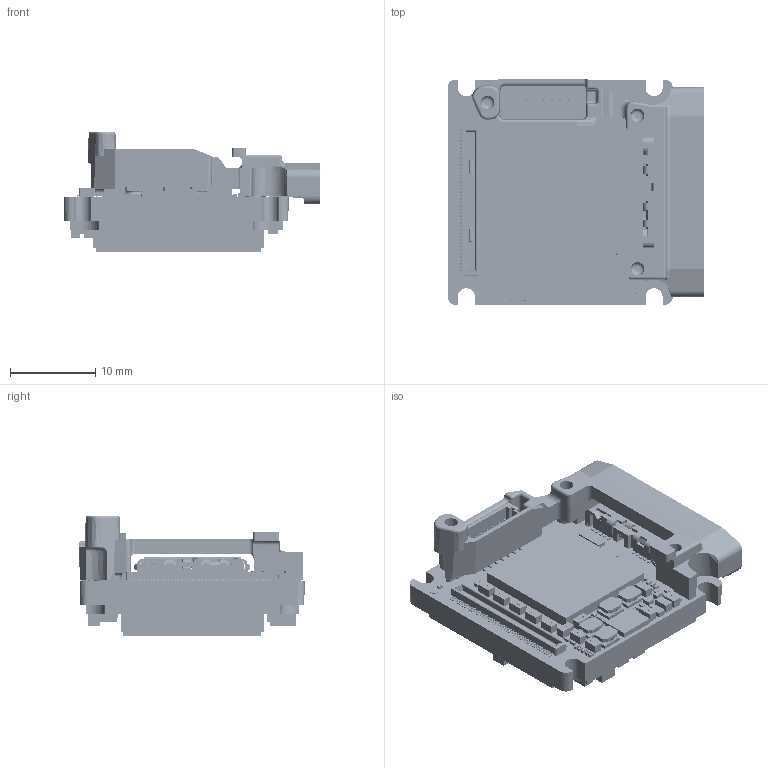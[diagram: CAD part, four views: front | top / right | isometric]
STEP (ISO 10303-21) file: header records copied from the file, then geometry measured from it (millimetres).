
FILE_DESCRIPTION (( 'STEP AP214' ), '1' );
FILE_NAME ('Alvium-USB90-Bare-Board-IMX183.STEP', '2022-12-21T12:19:46', ( '' ), ( '' ), 'SwSTEP 2.0', 'SolidWorks 2021', '' );
FILE_SCHEMA (( 'AUTOMOTIVE_DESIGN' ));
Length unit declared in the file: millimetre
Products named in the file (1): Alvium-USB90-Bare-Board-IMX183
Bounding box: 30.1 x 26.45 x 14.14 mm (x, y, z)
Surface area: 6397.7 mm2 (no closed solid volume)
Topology: 0 solids, 332 shells, 8031 faces, 24463 edges, 17382 vertices
Faces by surface type: plane 4387, bspline 2561, cylinder 1005, cone 38, torus 32, sphere 8
Entity records: 549600 total; most frequent: CARTESIAN_POINT 265580, ORIENTED_EDGE 43797, DIRECTION 28987, EDGE_CURVE 24456, VERTEX_POINT 17382, VECTOR 14021, LINE 14021, EDGE_LOOP 8964
